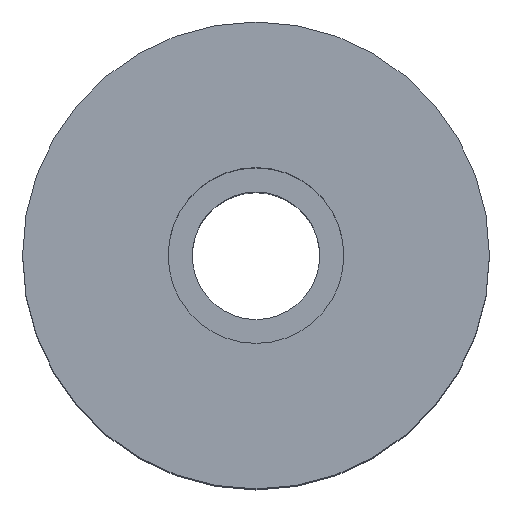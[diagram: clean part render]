
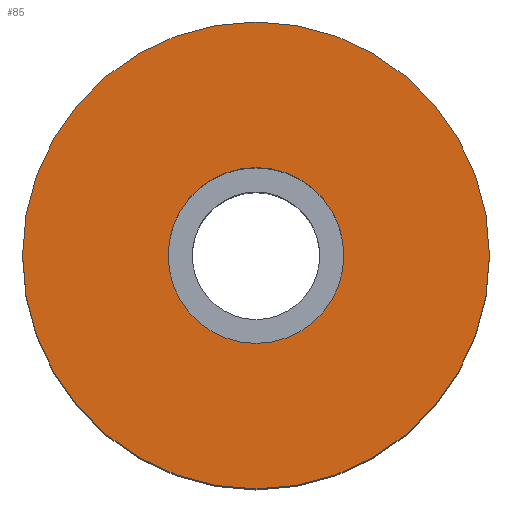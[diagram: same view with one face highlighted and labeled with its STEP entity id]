
A CAD part, top view. The second image highlights one B-rep face of the part: STEP entity #85.
In plain terms, the highlighted planar face has unit normal (0, 0, 1).
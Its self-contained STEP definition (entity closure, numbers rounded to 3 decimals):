
#85=ADVANCED_FACE('',(#132,#133),#134,.T.);
#132=FACE_BOUND('',#183,.T.);
#133=FACE_OUTER_BOUND('',#184,.T.);
#134=PLANE('',#185);
#183=EDGE_LOOP('',(#345,#346));
#184=EDGE_LOOP('',(#347,#348));
#185=AXIS2_PLACEMENT_3D('',#349,#350,#351);
#345=ORIENTED_EDGE('',*,*,#417,.F.);
#346=ORIENTED_EDGE('',*,*,#410,.F.);
#347=ORIENTED_EDGE('',*,*,#414,.T.);
#348=ORIENTED_EDGE('',*,*,#415,.T.);
#349=CARTESIAN_POINT('',(30.625,0.0,112.241));
#350=DIRECTION('',(-0.0,0.,1.0));
#351=DIRECTION('',(1.0,0.0,0.0));
#410=EDGE_CURVE('',#492,#488,#494,.T.);
#414=EDGE_CURVE('',#496,#500,#502,.T.);
#415=EDGE_CURVE('',#500,#496,#503,.T.);
#417=EDGE_CURVE('',#488,#492,#505,.T.);
#488=VERTEX_POINT('',#586);
#492=VERTEX_POINT('',#591);
#494=CIRCLE('',#594,16.75);
#496=VERTEX_POINT('',#596);
#500=VERTEX_POINT('',#601);
#502=CIRCLE('',#604,44.5);
#503=CIRCLE('',#605,44.5);
#505=CIRCLE('',#607,16.75);
#586=CARTESIAN_POINT('',(16.75,0.0,112.241));
#591=CARTESIAN_POINT('',(-16.75,0.,112.241));
#594=AXIS2_PLACEMENT_3D('',#717,#718,#719);
#596=CARTESIAN_POINT('',(44.5,0.0,112.241));
#601=CARTESIAN_POINT('',(-44.5,0.,112.241));
#604=AXIS2_PLACEMENT_3D('',#725,#726,#727);
#605=AXIS2_PLACEMENT_3D('',#728,#729,#730);
#607=AXIS2_PLACEMENT_3D('',#734,#735,#736);
#717=CARTESIAN_POINT('',(0.0,0.0,112.241));
#718=DIRECTION('',(-0.0,0.,1.0));
#719=DIRECTION('',(1.0,0.0,0.0));
#725=CARTESIAN_POINT('',(0.0,0.0,112.241));
#726=DIRECTION('',(-0.0,0.,1.0));
#727=DIRECTION('',(1.0,0.0,0.0));
#728=CARTESIAN_POINT('',(0.0,0.0,112.241));
#729=DIRECTION('',(-0.0,0.,1.0));
#730=DIRECTION('',(1.0,0.0,0.0));
#734=CARTESIAN_POINT('',(0.0,0.0,112.241));
#735=DIRECTION('',(-0.0,0.,1.0));
#736=DIRECTION('',(1.0,0.0,0.0));
